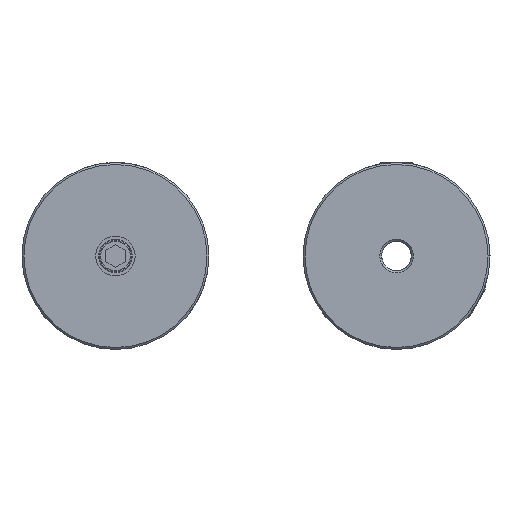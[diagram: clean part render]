
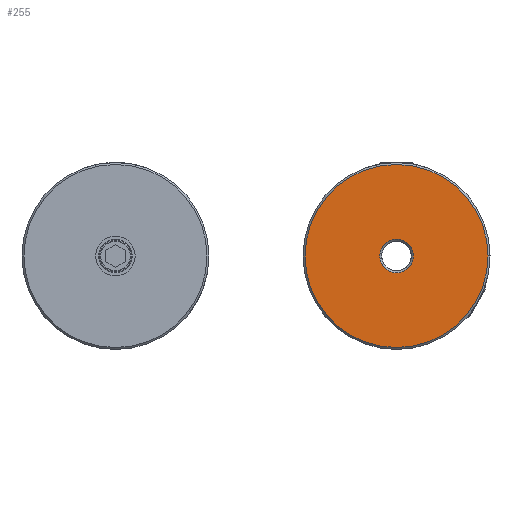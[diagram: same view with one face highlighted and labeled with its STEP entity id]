
A CAD part, left-side view. The second image highlights one B-rep face of the part: STEP entity #255.
In plain terms, the highlighted planar face has unit normal (-1, 0, 0).
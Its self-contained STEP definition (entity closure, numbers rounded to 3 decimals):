
#255 = ADVANCED_FACE( 'NONE', ( #428, #429 ), #430, .F. );
#428 = FACE_OUTER_BOUND( '', #671, .T. );
#429 = FACE_BOUND( '', #672, .T. );
#430 = PLANE( '', #673 );
#671 = EDGE_LOOP( '', ( #951 ) );
#672 = EDGE_LOOP( '', ( #952 ) );
#673 = AXIS2_PLACEMENT_3D( '', #953, #954, #955 );
#951 = ORIENTED_EDGE( '', *, *, #1356, .T. );
#952 = ORIENTED_EDGE( '', *, *, #1357, .T. );
#953 = CARTESIAN_POINT( '', ( 0., 9.5, 0. ) );
#954 = DIRECTION( '', ( 1., 0., 0. ) );
#955 = DIRECTION( '', ( 0., 1., 0. ) );
#1356 = EDGE_CURVE( 'NONE', #1474, #1474, #1475, .F. );
#1357 = EDGE_CURVE( 'NONE', #1476, #1476, #1477, .T. );
#1474 = VERTEX_POINT( '', #1819 );
#1475 = CIRCLE( '', #1820, 9.3 );
#1476 = VERTEX_POINT( '', #1821 );
#1477 = CIRCLE( '', #1822, 1.7 );
#1819 = CARTESIAN_POINT( '', ( 0., 0., -9.3 ) );
#1820 = AXIS2_PLACEMENT_3D( '', #1964, #1965, #1966 );
#1821 = CARTESIAN_POINT( '', ( 0., 0., -1.7 ) );
#1822 = AXIS2_PLACEMENT_3D( '', #1967, #1968, #1969 );
#1964 = CARTESIAN_POINT( '', ( 0., 0., 0. ) );
#1965 = DIRECTION( '', ( 1., 0., 0. ) );
#1966 = DIRECTION( '', ( 0., 0., -1. ) );
#1967 = CARTESIAN_POINT( '', ( 0., 0., 0. ) );
#1968 = DIRECTION( '', ( 1., 0., 0. ) );
#1969 = DIRECTION( '', ( 0., 0., -1. ) );
